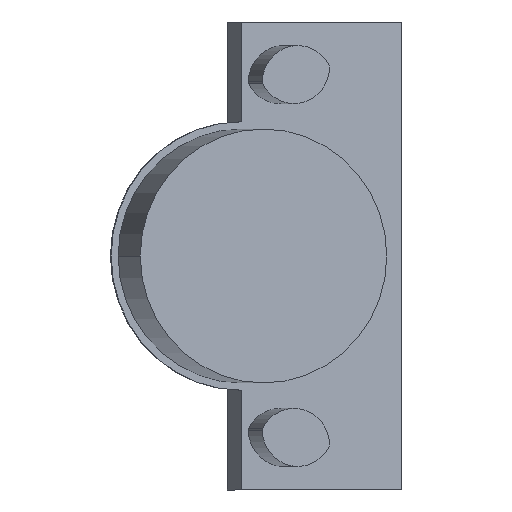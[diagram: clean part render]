
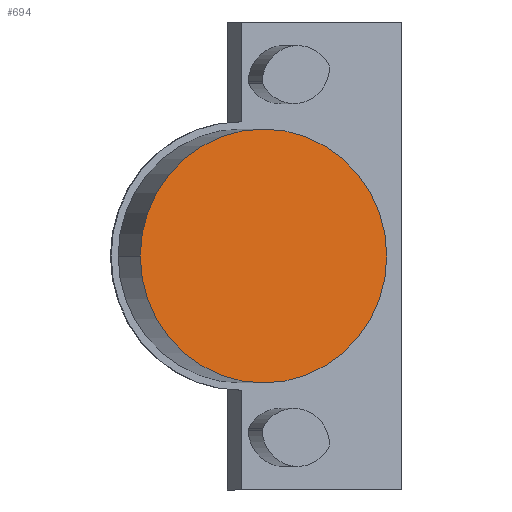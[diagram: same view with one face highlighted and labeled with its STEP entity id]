
A CAD part, front view. The second image highlights one B-rep face of the part: STEP entity #694.
In plain terms, the highlighted planar face has unit normal (0.242, -0.97, 0).
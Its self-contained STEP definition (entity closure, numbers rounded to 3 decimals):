
#14 = EDGE_CURVE ( 'NONE', #865, #266, #1200, .T. ) ;
#71 = EDGE_CURVE ( 'NONE', #266, #865, #355, .T. ) ;
#151 = DIRECTION ( 'NONE',  ( 0.242, -0.97, 0. ) ) ;
#266 = VERTEX_POINT ( 'NONE', #855 ) ;
#326 = ORIENTED_EDGE ( 'NONE', *, *, #14, .T. ) ;
#355 = CIRCLE ( 'NONE', #832, 17.5 ) ;
#488 = DIRECTION ( 'NONE',  ( 0.97, 0.242, 0. ) ) ;
#493 = CARTESIAN_POINT ( 'NONE',  ( 10.048, -51.886, 0. ) ) ;
#612 = FACE_OUTER_BOUND ( 'NONE', #1537, .T. ) ;
#632 = DIRECTION ( 'NONE',  ( 0.97, 0.242, 0. ) ) ;
#634 = DIRECTION ( 'NONE',  ( 0.242, -0.97, 0. ) ) ;
#694 = ADVANCED_FACE ( 'NONE', ( #612 ), #1214, .T. ) ;
#832 = AXIS2_PLACEMENT_3D ( 'NONE', #952, #151, #632 ) ;
#855 = CARTESIAN_POINT ( 'NONE',  ( 27.028, -47.652, 0. ) ) ;
#865 = VERTEX_POINT ( 'NONE', #1120 ) ;
#938 = AXIS2_PLACEMENT_3D ( 'NONE', #493, #634, #488 ) ;
#952 = CARTESIAN_POINT ( 'NONE',  ( 10.048, -51.886, 0. ) ) ;
#1120 = CARTESIAN_POINT ( 'NONE',  ( -6.932, -56.119, 0. ) ) ;
#1175 = ORIENTED_EDGE ( 'NONE', *, *, #71, .T. ) ;
#1200 = CIRCLE ( 'NONE', #1350, 17.5 ) ;
#1214 = PLANE ( 'NONE',  #938 ) ;
#1299 = DIRECTION ( 'NONE',  ( 0.97, 0.242, 0. ) ) ;
#1333 = CARTESIAN_POINT ( 'NONE',  ( 10.048, -51.886, 0. ) ) ;
#1350 = AXIS2_PLACEMENT_3D ( 'NONE', #1333, #1463, #1299 ) ;
#1463 = DIRECTION ( 'NONE',  ( 0.242, -0.97, 0. ) ) ;
#1537 = EDGE_LOOP ( 'NONE', ( #326, #1175 ) ) ;
